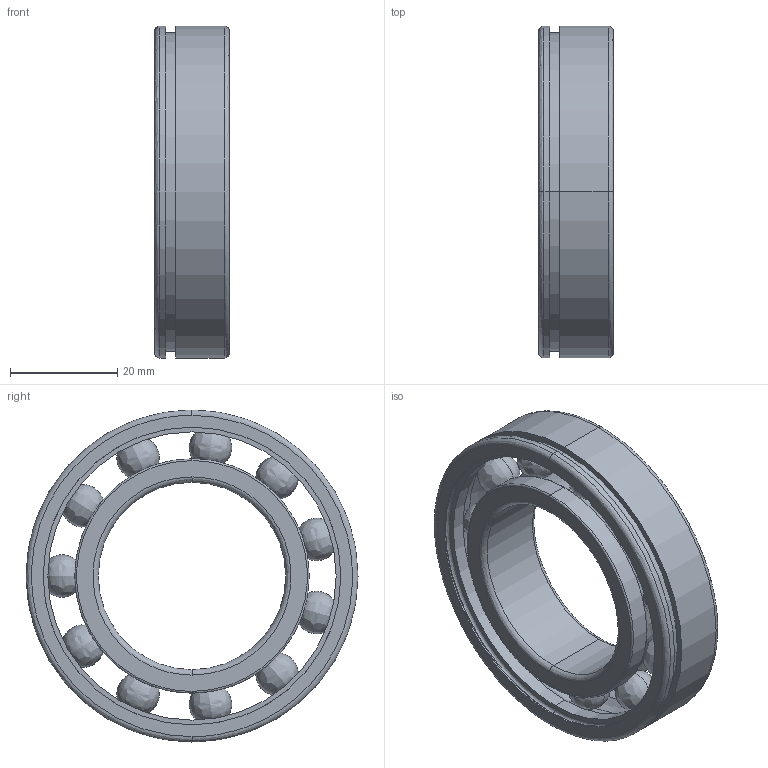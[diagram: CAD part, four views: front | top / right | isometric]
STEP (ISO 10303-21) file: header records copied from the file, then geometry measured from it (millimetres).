
FILE_DESCRIPTION (( 'STEP AP214' ), '1' );
FILE_NAME ('6007N_alberto.STEP', '2019-07-18T08:50:57', ( '' ), ( '' ), 'SwSTEP 2.0', 'SolidWorks 2015', '' );
FILE_SCHEMA (( 'AUTOMOTIVE_DESIGN' ));
Length unit declared in the file: millimetre
Products named in the file (4): _6007 N_PART2; _6007 N_PART1; 6007N_alberto; _6007 N_PART3
Assembly tree (13 placements, depth 2):
  6007N_alberto
    _6007 N_PART1
    _6007 N_PART2
    _6007 N_PART3  x11
Bounding box: 14 x 62 x 62 mm (x, y, z)
Volume: 17769.5 mm3; surface area: 13962.1 mm2
Topology: 13 solids, 13 shells, 76 faces, 174 edges, 84 vertices
Faces by surface type: bspline 48, cylinder 20, plane 8
Entity records: 3466 total; most frequent: CARTESIAN_POINT 1562, DIRECTION 256, ORIENTED_EDGE 220, AXIS2_PLACEMENT_3D 118, EDGE_CURVE 110, CIRCLE 74, UNCERTAINTY_MEASURE_WITH_UNIT 66, EDGE_LOOP 64
